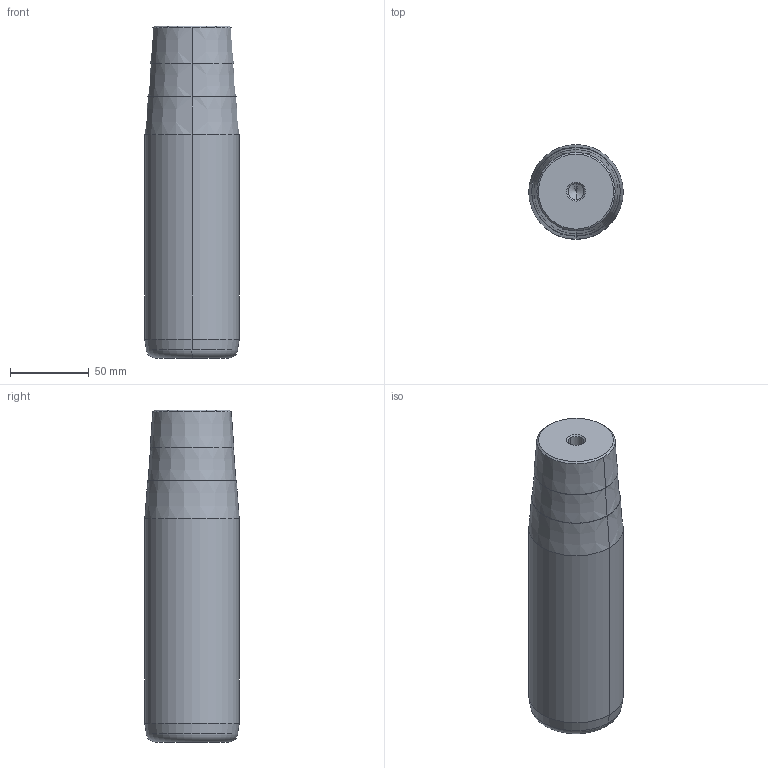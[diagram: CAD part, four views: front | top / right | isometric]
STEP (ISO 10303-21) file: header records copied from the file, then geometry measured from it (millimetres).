
FILE_DESCRIPTION(('CATIA V5 STEP Exchange'),'2;1');
FILE_NAME('C:\Users\Utente\Desktop\IO LAVORO\3D X SITO CF\X SITO\722\722-60x160x211.stp','2021-01-07T19:35:14+00:00',('none'),('none'),'CATIA Version 5 Release 20 GA (IN-10)','CATIA V5 STEP AP203','none');
FILE_SCHEMA(('CONFIG_CONTROL_DESIGN'));
Length unit declared in the file: millimetre
Products named in the file (1): 722-60x160x211
Bounding box: 60 x 60 x 211 mm (x, y, z)
Volume: 556693.8 mm3; surface area: 44519.8 mm2
Topology: 1 solids, 1 shells, 32 faces, 98 edges, 66 vertices
Faces by surface type: cone 22, cylinder 6, plane 2, torus 2
Entity records: 1172 total; most frequent: CARTESIAN_POINT 285, ORIENTED_EDGE 188, DIRECTION 148, EDGE_CURVE 94, AXIS2_PLACEMENT_3D 89, VERTEX_POINT 66, CIRCLE 56, EDGE_LOOP 34
